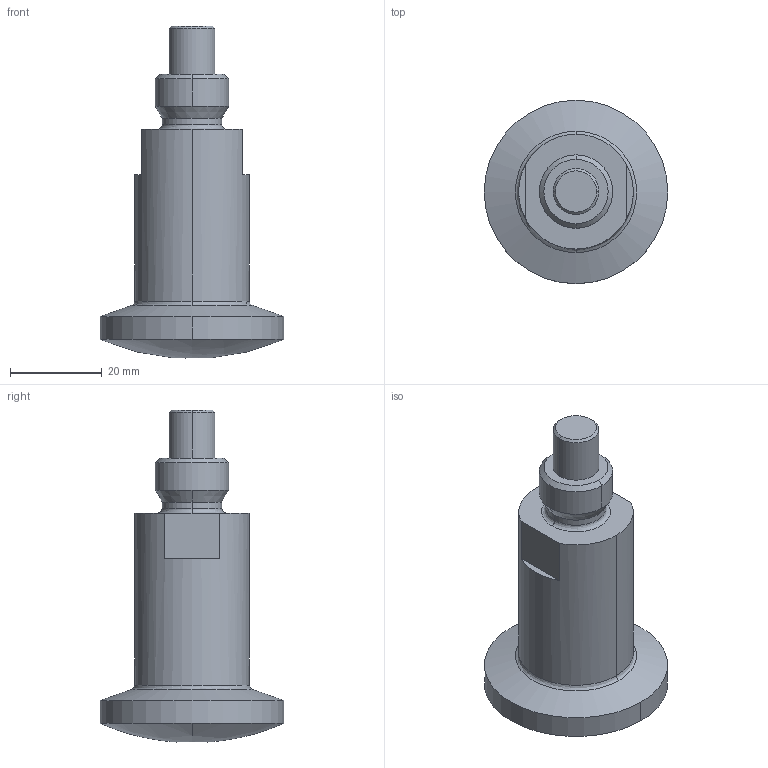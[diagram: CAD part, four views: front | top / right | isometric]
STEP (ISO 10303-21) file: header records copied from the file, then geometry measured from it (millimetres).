
FILE_DESCRIPTION (( 'STEP AP214' ), '1' );
FILE_NAME ('GT029311.STEP', '2022-12-05T13:12:25', ( '' ), ( '' ), 'SwSTEP 2.0', 'SolidWorks 2022', '' );
FILE_SCHEMA (( 'AUTOMOTIVE_DESIGN' ));
Length unit declared in the file: millimetre
Products named in the file (1): GT029311
Bounding box: 40 x 40 x 72.36 mm (x, y, z)
Volume: 32716.7 mm3; surface area: 7146.3 mm2
Topology: 1 solids, 1 shells, 30 faces, 65 edges, 40 vertices
Faces by surface type: cylinder 10, bspline 7, plane 7, cone 6
Entity records: 1443 total; most frequent: CARTESIAN_POINT 419, DIRECTION 150, ORIENTED_EDGE 130, EDGE_CURVE 65, AXIS2_PLACEMENT_3D 63, VERTEX_POINT 40, CIRCLE 39, UNCERTAINTY_MEASURE_WITH_UNIT 33
